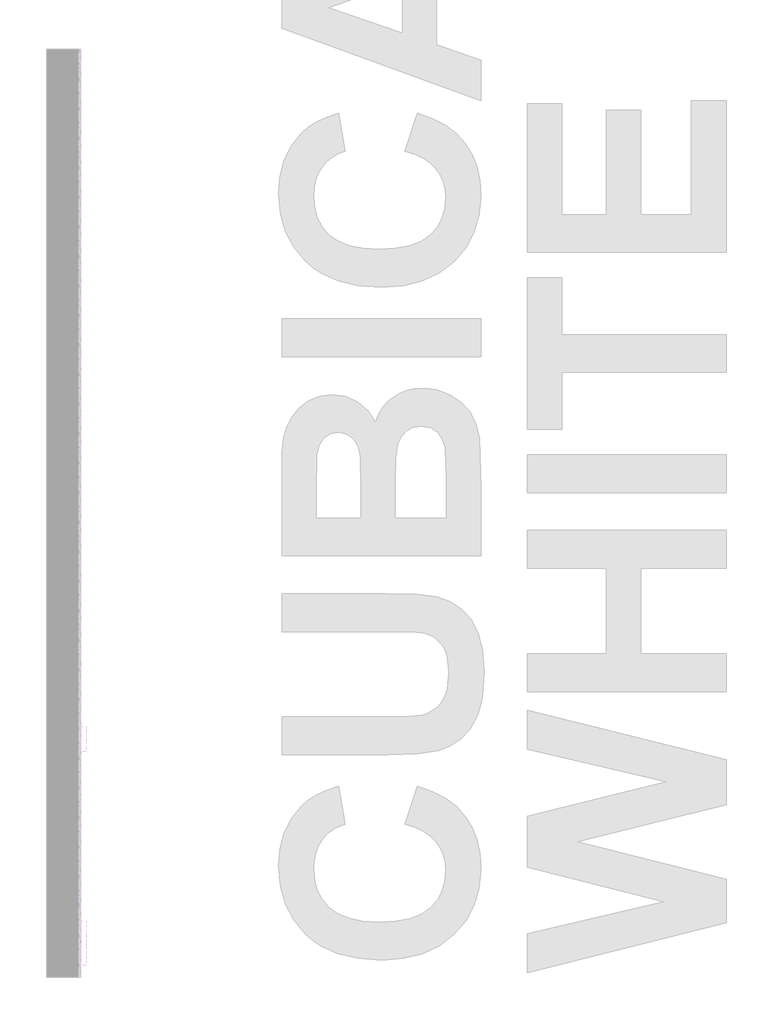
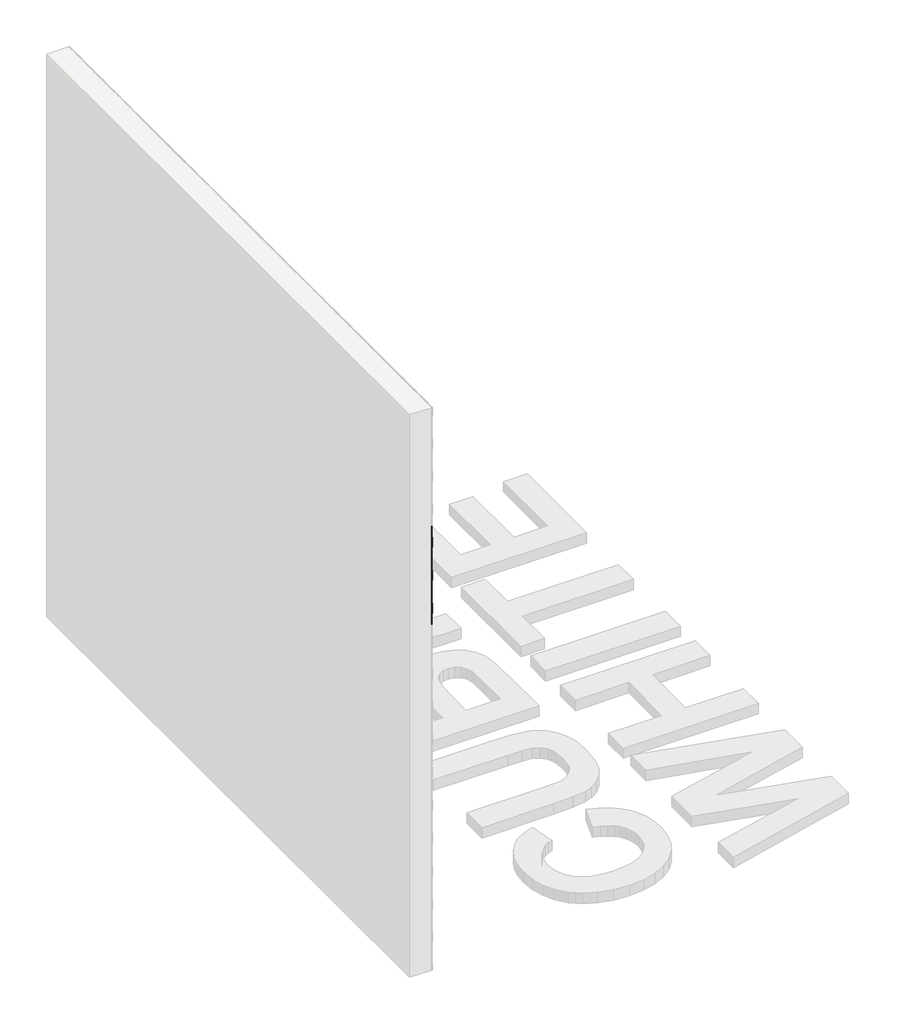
# One storey, part 102 of 121: 144 proxies.
"""IFC4 building model written with IfcOpenShell, lengths in millimetres."""

from ifc_helpers import new_model, si_unit, origin, place, context, project, spatial, transform, mapped, element, save
from components import generic_models_b2b2c5c1, generic_models_9bf73f6f, generic_models_5d175859, generic_models_45888c4d

model = new_model("IFC4")

# Units and contexts
model_context = context("Model", 3, world=origin())
ifc_project = project(units=[si_unit("LENGTHUNIT", "METRE", prefix="MILLI")], contexts=[model_context])

# Site, building, storey
site = spatial("IfcSite", under=ifc_project)
building = spatial("IfcBuilding", under=site)
storey = spatial("IfcBuildingStorey", under=building, Name="PORTOBELLO - SHOWROOM", Elevation=0.0)

# Proxies
placement = place(None, origin())
generic_models_shape = generic_models_b2b2c5c1(model_context)
element("IfcBuildingElementProxy", 1, Name="PBSHOP - CUBICA WHITE 4,8X8,3 : CUBICA WHITE - POSIÇÃO 01", ObjectType="PBSHOP - CUBICA WHITE 4,8X8,3 : CUBICA WHITE - POSIÇÃO 01", at=placement, inside=storey, context=model_context, shape_type="MappedRepresentation", body=[
    mapped(generic_models_shape, transform((150369.5341846, 19196.5477456, 1775.984211), x_axis=(0.0, 1.0, 0.0), y_axis=(0.0, 0.0, 1.0), z_axis=(1.0, 0.0, 0.0))),
])
element("IfcBuildingElementProxy", 2, Name="PBSHOP - CUBICA WHITE 4,8X8,3 : CUBICA WHITE - POSIÇÃO 01", ObjectType="PBSHOP - CUBICA WHITE 4,8X8,3 : CUBICA WHITE - POSIÇÃO 01", at=placement, inside=storey, context=model_context, shape_type="MappedRepresentation", body=[
    mapped(generic_models_shape, transform((150369.5341846, 19287.3870148, 1775.984211), x_axis=(0.0, 1.0, 0.0), y_axis=(0.0, 0.0, 1.0), z_axis=(1.0, 0.0, 0.0))),
])
element("IfcBuildingElementProxy", 3, Name="PBSHOP - CUBICA WHITE 4,8X8,3 : CUBICA WHITE - POSIÇÃO 01", ObjectType="PBSHOP - CUBICA WHITE 4,8X8,3 : CUBICA WHITE - POSIÇÃO 01", at=placement, inside=storey, context=model_context, shape_type="MappedRepresentation", body=[
    mapped(generic_models_shape, transform((150369.5341846, 19378.2262841, 1775.984211), x_axis=(0.0, 1.0, 0.0), y_axis=(0.0, 0.0, 1.0), z_axis=(1.0, 0.0, 0.0))),
])
element("IfcBuildingElementProxy", 4, Name="PBSHOP - CUBICA WHITE 4,8X8,3 : CUBICA WHITE - POSIÇÃO 01", ObjectType="PBSHOP - CUBICA WHITE 4,8X8,3 : CUBICA WHITE - POSIÇÃO 01", at=placement, inside=storey, context=model_context, shape_type="MappedRepresentation", body=[
    mapped(generic_models_shape, transform((150369.5341846, 19469.0655533, 1775.984211), x_axis=(0.0, 1.0, 0.0), y_axis=(0.0, 0.0, 1.0), z_axis=(1.0, 0.0, 0.0))),
])
element("IfcBuildingElementProxy", 5, Name="PBSHOP - CUBICA WHITE 4,8X8,3 : CUBICA WHITE - POSIÇÃO 01", ObjectType="PBSHOP - CUBICA WHITE 4,8X8,3 : CUBICA WHITE - POSIÇÃO 01", at=placement, inside=storey, context=model_context, shape_type="MappedRepresentation", body=[
    mapped(generic_models_shape, transform((150369.5341846, 19559.9048225, 1775.984211), x_axis=(0.0, 1.0, 0.0), y_axis=(0.0, 0.0, 1.0), z_axis=(1.0, 0.0, 0.0))),
])
element("IfcBuildingElementProxy", 6, Name="PBSHOP - CUBICA WHITE 4,8X8,3 : CUBICA WHITE - POSIÇÃO 01", ObjectType="PBSHOP - CUBICA WHITE 4,8X8,3 : CUBICA WHITE - POSIÇÃO 01", at=placement, inside=storey, context=model_context, shape_type="MappedRepresentation", body=[
    mapped(generic_models_shape, transform((150369.5341846, 19650.7440918, 1775.984211), x_axis=(0.0, 1.0, 0.0), y_axis=(0.0, 0.0, 1.0), z_axis=(1.0, 0.0, 0.0))),
])
element("IfcBuildingElementProxy", 7, Name="PBSHOP - CUBICA WHITE 4,8X8,3 : CUBICA WHITE - POSIÇÃO 01", ObjectType="PBSHOP - CUBICA WHITE 4,8X8,3 : CUBICA WHITE - POSIÇÃO 01", at=placement, inside=storey, context=model_context, shape_type="MappedRepresentation", body=[
    mapped(generic_models_shape, transform((150369.5341846, 19741.583361, 1775.984211), x_axis=(0.0, 1.0, 0.0), y_axis=(0.0, 0.0, 1.0), z_axis=(1.0, 0.0, 0.0))),
])
element("IfcBuildingElementProxy", 8, Name="PBSHOP - CUBICA WHITE 4,8X8,3 : CUBICA WHITE - POSIÇÃO 01", ObjectType="PBSHOP - CUBICA WHITE 4,8X8,3 : CUBICA WHITE - POSIÇÃO 01", at=placement, inside=storey, context=model_context, shape_type="MappedRepresentation", body=[
    mapped(generic_models_shape, transform((150369.5341846, 19832.4226303, 1775.984211), x_axis=(0.0, 1.0, 0.0), y_axis=(0.0, 0.0, 1.0), z_axis=(1.0, 0.0, 0.0))),
])
element("IfcBuildingElementProxy", 9, Name="PBSHOP - CUBICA WHITE 4,8X8,3 : CUBICA WHITE - POSIÇÃO 01", ObjectType="PBSHOP - CUBICA WHITE 4,8X8,3 : CUBICA WHITE - POSIÇÃO 01", at=placement, inside=storey, context=model_context, shape_type="MappedRepresentation", body=[
    mapped(generic_models_shape, transform((150369.5341846, 19923.2618995, 1775.984211), x_axis=(0.0, 1.0, 0.0), y_axis=(0.0, 0.0, 1.0), z_axis=(1.0, 0.0, 0.0))),
])
element("IfcBuildingElementProxy", 10, Name="PBSHOP - CUBICA WHITE 4,8X8,3 : CUBICA WHITE - POSIÇÃO 01", ObjectType="PBSHOP - CUBICA WHITE 4,8X8,3 : CUBICA WHITE - POSIÇÃO 01", at=placement, inside=storey, context=model_context, shape_type="MappedRepresentation", body=[
    mapped(generic_models_shape, transform((150369.5341846, 19241.9673802, 1854.9188494), x_axis=(0.0, 1.0, 0.0), y_axis=(0.0, 0.0, 1.0), z_axis=(1.0, 0.0, 0.0))),
])
element("IfcBuildingElementProxy", 11, Name="PBSHOP - CUBICA WHITE 4,8X8,3 : CUBICA WHITE - POSIÇÃO 01", ObjectType="PBSHOP - CUBICA WHITE 4,8X8,3 : CUBICA WHITE - POSIÇÃO 01", at=placement, inside=storey, context=model_context, shape_type="MappedRepresentation", body=[
    mapped(generic_models_shape, transform((150369.5341846, 19332.8066494, 1854.9188494), x_axis=(0.0, 1.0, 0.0), y_axis=(0.0, 0.0, 1.0), z_axis=(1.0, 0.0, 0.0))),
])
element("IfcBuildingElementProxy", 12, Name="PBSHOP - CUBICA WHITE 4,8X8,3 : CUBICA WHITE - POSIÇÃO 01", ObjectType="PBSHOP - CUBICA WHITE 4,8X8,3 : CUBICA WHITE - POSIÇÃO 01", at=placement, inside=storey, context=model_context, shape_type="MappedRepresentation", body=[
    mapped(generic_models_shape, transform((150369.5341846, 19423.6459187, 1854.9188494), x_axis=(0.0, 1.0, 0.0), y_axis=(0.0, 0.0, 1.0), z_axis=(1.0, 0.0, 0.0))),
])
element("IfcBuildingElementProxy", 13, Name="PBSHOP - CUBICA WHITE 4,8X8,3 : CUBICA WHITE - POSIÇÃO 01", ObjectType="PBSHOP - CUBICA WHITE 4,8X8,3 : CUBICA WHITE - POSIÇÃO 01", at=placement, inside=storey, context=model_context, shape_type="MappedRepresentation", body=[
    mapped(generic_models_shape, transform((150369.5341846, 19514.4851879, 1854.9188494), x_axis=(0.0, 1.0, 0.0), y_axis=(0.0, 0.0, 1.0), z_axis=(1.0, 0.0, 0.0))),
])
element("IfcBuildingElementProxy", 14, Name="PBSHOP - CUBICA WHITE 4,8X8,3 : CUBICA WHITE - POSIÇÃO 01", ObjectType="PBSHOP - CUBICA WHITE 4,8X8,3 : CUBICA WHITE - POSIÇÃO 01", at=placement, inside=storey, context=model_context, shape_type="MappedRepresentation", body=[
    mapped(generic_models_shape, transform((150369.5341846, 19605.3244572, 1854.9188494), x_axis=(0.0, 1.0, 0.0), y_axis=(0.0, 0.0, 1.0), z_axis=(1.0, 0.0, 0.0))),
])
element("IfcBuildingElementProxy", 15, Name="PBSHOP - CUBICA WHITE 4,8X8,3 : CUBICA WHITE - POSIÇÃO 01", ObjectType="PBSHOP - CUBICA WHITE 4,8X8,3 : CUBICA WHITE - POSIÇÃO 01", at=placement, inside=storey, context=model_context, shape_type="MappedRepresentation", body=[
    mapped(generic_models_shape, transform((150369.5341846, 19696.1637264, 1854.9188494), x_axis=(0.0, 1.0, 0.0), y_axis=(0.0, 0.0, 1.0), z_axis=(1.0, 0.0, 0.0))),
])
element("IfcBuildingElementProxy", 16, Name="PBSHOP - CUBICA WHITE 4,8X8,3 : CUBICA WHITE - POSIÇÃO 01", ObjectType="PBSHOP - CUBICA WHITE 4,8X8,3 : CUBICA WHITE - POSIÇÃO 01", at=placement, inside=storey, context=model_context, shape_type="MappedRepresentation", body=[
    mapped(generic_models_shape, transform((150369.5341846, 19787.0029957, 1854.9188494), x_axis=(0.0, 1.0, 0.0), y_axis=(0.0, 0.0, 1.0), z_axis=(1.0, 0.0, 0.0))),
])
element("IfcBuildingElementProxy", 17, Name="PBSHOP - CUBICA WHITE 4,8X8,3 : CUBICA WHITE - POSIÇÃO 01", ObjectType="PBSHOP - CUBICA WHITE 4,8X8,3 : CUBICA WHITE - POSIÇÃO 01", at=placement, inside=storey, context=model_context, shape_type="MappedRepresentation", body=[
    mapped(generic_models_shape, transform((150369.5341846, 19877.8422649, 1854.9188494), x_axis=(0.0, 1.0, 0.0), y_axis=(0.0, 0.0, 1.0), z_axis=(1.0, 0.0, 0.0))),
])
element("IfcBuildingElementProxy", 18, Name="PBSHOP - CUBICA WHITE 4,8X8,3 : CUBICA WHITE - POSIÇÃO 01", ObjectType="PBSHOP - CUBICA WHITE 4,8X8,3 : CUBICA WHITE - POSIÇÃO 01", at=placement, inside=storey, context=model_context, shape_type="MappedRepresentation", body=[
    mapped(generic_models_shape, transform((150369.5341846, 19968.6815341, 1854.9188494), x_axis=(0.0, 1.0, 0.0), y_axis=(0.0, 0.0, 1.0), z_axis=(1.0, 0.0, 0.0))),
])
element("IfcBuildingElementProxy", 19, Name="PBSHOP - CUBICA WHITE 4,8X8,3 : CUBICA WHITE - POSIÇÃO 01", ObjectType="PBSHOP - CUBICA WHITE 4,8X8,3 : CUBICA WHITE - POSIÇÃO 01", at=placement, inside=storey, context=model_context, shape_type="MappedRepresentation", body=[
    mapped(generic_models_shape, transform((150369.5341846, 19196.5477456, 1933.8534878), x_axis=(0.0, 1.0, 0.0), y_axis=(0.0, 0.0, 1.0), z_axis=(1.0, 0.0, 0.0))),
])
element("IfcBuildingElementProxy", 20, Name="PBSHOP - CUBICA WHITE 4,8X8,3 : CUBICA WHITE - POSIÇÃO 01", ObjectType="PBSHOP - CUBICA WHITE 4,8X8,3 : CUBICA WHITE - POSIÇÃO 01", at=placement, inside=storey, context=model_context, shape_type="MappedRepresentation", body=[
    mapped(generic_models_shape, transform((150369.5341846, 19287.3870148, 1933.8534878), x_axis=(0.0, 1.0, 0.0), y_axis=(0.0, 0.0, 1.0), z_axis=(1.0, 0.0, 0.0))),
])
element("IfcBuildingElementProxy", 21, Name="PBSHOP - CUBICA WHITE 4,8X8,3 : CUBICA WHITE - POSIÇÃO 01", ObjectType="PBSHOP - CUBICA WHITE 4,8X8,3 : CUBICA WHITE - POSIÇÃO 01", at=placement, inside=storey, context=model_context, shape_type="MappedRepresentation", body=[
    mapped(generic_models_shape, transform((150369.5341846, 19378.2262841, 1933.8534878), x_axis=(0.0, 1.0, 0.0), y_axis=(0.0, 0.0, 1.0), z_axis=(1.0, 0.0, 0.0))),
])
element("IfcBuildingElementProxy", 22, Name="PBSHOP - CUBICA WHITE 4,8X8,3 : CUBICA WHITE - POSIÇÃO 01", ObjectType="PBSHOP - CUBICA WHITE 4,8X8,3 : CUBICA WHITE - POSIÇÃO 01", at=placement, inside=storey, context=model_context, shape_type="MappedRepresentation", body=[
    mapped(generic_models_shape, transform((150369.5341846, 19469.0655533, 1933.8534878), x_axis=(0.0, 1.0, 0.0), y_axis=(0.0, 0.0, 1.0), z_axis=(1.0, 0.0, 0.0))),
])
element("IfcBuildingElementProxy", 23, Name="PBSHOP - CUBICA WHITE 4,8X8,3 : CUBICA WHITE - POSIÇÃO 01", ObjectType="PBSHOP - CUBICA WHITE 4,8X8,3 : CUBICA WHITE - POSIÇÃO 01", at=placement, inside=storey, context=model_context, shape_type="MappedRepresentation", body=[
    mapped(generic_models_shape, transform((150369.5341846, 19559.9048225, 1933.8534878), x_axis=(0.0, 1.0, 0.0), y_axis=(0.0, 0.0, 1.0), z_axis=(1.0, 0.0, 0.0))),
])
element("IfcBuildingElementProxy", 24, Name="PBSHOP - CUBICA WHITE 4,8X8,3 : CUBICA WHITE - POSIÇÃO 01", ObjectType="PBSHOP - CUBICA WHITE 4,8X8,3 : CUBICA WHITE - POSIÇÃO 01", at=placement, inside=storey, context=model_context, shape_type="MappedRepresentation", body=[
    mapped(generic_models_shape, transform((150369.5341846, 19650.7440918, 1933.8534878), x_axis=(0.0, 1.0, 0.0), y_axis=(0.0, 0.0, 1.0), z_axis=(1.0, 0.0, 0.0))),
])
element("IfcBuildingElementProxy", 25, Name="PBSHOP - CUBICA WHITE 4,8X8,3 : CUBICA WHITE - POSIÇÃO 01", ObjectType="PBSHOP - CUBICA WHITE 4,8X8,3 : CUBICA WHITE - POSIÇÃO 01", at=placement, inside=storey, context=model_context, shape_type="MappedRepresentation", body=[
    mapped(generic_models_shape, transform((150369.5341846, 19741.583361, 1933.8534878), x_axis=(0.0, 1.0, 0.0), y_axis=(0.0, 0.0, 1.0), z_axis=(1.0, 0.0, 0.0))),
])
element("IfcBuildingElementProxy", 26, Name="PBSHOP - CUBICA WHITE 4,8X8,3 : CUBICA WHITE - POSIÇÃO 01", ObjectType="PBSHOP - CUBICA WHITE 4,8X8,3 : CUBICA WHITE - POSIÇÃO 01", at=placement, inside=storey, context=model_context, shape_type="MappedRepresentation", body=[
    mapped(generic_models_shape, transform((150369.5341846, 19832.4226303, 1933.8534878), x_axis=(0.0, 1.0, 0.0), y_axis=(0.0, 0.0, 1.0), z_axis=(1.0, 0.0, 0.0))),
])
element("IfcBuildingElementProxy", 27, Name="PBSHOP - CUBICA WHITE 4,8X8,3 : CUBICA WHITE - POSIÇÃO 01", ObjectType="PBSHOP - CUBICA WHITE 4,8X8,3 : CUBICA WHITE - POSIÇÃO 01", at=placement, inside=storey, context=model_context, shape_type="MappedRepresentation", body=[
    mapped(generic_models_shape, transform((150369.5341846, 19923.2618995, 1933.8534878), x_axis=(0.0, 1.0, 0.0), y_axis=(0.0, 0.0, 1.0), z_axis=(1.0, 0.0, 0.0))),
])
element("IfcBuildingElementProxy", 28, Name="PBSHOP - CUBICA WHITE 4,8X8,3 : CUBICA WHITE - POSIÇÃO 01", ObjectType="PBSHOP - CUBICA WHITE 4,8X8,3 : CUBICA WHITE - POSIÇÃO 01", at=placement, inside=storey, context=model_context, shape_type="MappedRepresentation", body=[
    mapped(generic_models_shape, transform((150369.5341846, 19241.9673802, 2012.7881262), x_axis=(0.0, 1.0, 0.0), y_axis=(0.0, 0.0, 1.0), z_axis=(1.0, 0.0, 0.0))),
])
element("IfcBuildingElementProxy", 29, Name="PBSHOP - CUBICA WHITE 4,8X8,3 : CUBICA WHITE - POSIÇÃO 01", ObjectType="PBSHOP - CUBICA WHITE 4,8X8,3 : CUBICA WHITE - POSIÇÃO 01", at=placement, inside=storey, context=model_context, shape_type="MappedRepresentation", body=[
    mapped(generic_models_shape, transform((150369.5341846, 19332.8066494, 2012.7881262), x_axis=(0.0, 1.0, 0.0), y_axis=(0.0, 0.0, 1.0), z_axis=(1.0, 0.0, 0.0))),
])
element("IfcBuildingElementProxy", 30, Name="PBSHOP - CUBICA WHITE 4,8X8,3 : CUBICA WHITE - POSIÇÃO 01", ObjectType="PBSHOP - CUBICA WHITE 4,8X8,3 : CUBICA WHITE - POSIÇÃO 01", at=placement, inside=storey, context=model_context, shape_type="MappedRepresentation", body=[
    mapped(generic_models_shape, transform((150369.5341846, 19423.6459187, 2012.7881262), x_axis=(0.0, 1.0, 0.0), y_axis=(0.0, 0.0, 1.0), z_axis=(1.0, 0.0, 0.0))),
])
element("IfcBuildingElementProxy", 31, Name="PBSHOP - CUBICA WHITE 4,8X8,3 : CUBICA WHITE - POSIÇÃO 01", ObjectType="PBSHOP - CUBICA WHITE 4,8X8,3 : CUBICA WHITE - POSIÇÃO 01", at=placement, inside=storey, context=model_context, shape_type="MappedRepresentation", body=[
    mapped(generic_models_shape, transform((150369.5341846, 19514.4851879, 2012.7881262), x_axis=(0.0, 1.0, 0.0), y_axis=(0.0, 0.0, 1.0), z_axis=(1.0, 0.0, 0.0))),
])
element("IfcBuildingElementProxy", 32, Name="PBSHOP - CUBICA WHITE 4,8X8,3 : CUBICA WHITE - POSIÇÃO 01", ObjectType="PBSHOP - CUBICA WHITE 4,8X8,3 : CUBICA WHITE - POSIÇÃO 01", at=placement, inside=storey, context=model_context, shape_type="MappedRepresentation", body=[
    mapped(generic_models_shape, transform((150369.5341846, 19605.3244572, 2012.7881262), x_axis=(0.0, 1.0, 0.0), y_axis=(0.0, 0.0, 1.0), z_axis=(1.0, 0.0, 0.0))),
])
element("IfcBuildingElementProxy", 33, Name="PBSHOP - CUBICA WHITE 4,8X8,3 : CUBICA WHITE - POSIÇÃO 01", ObjectType="PBSHOP - CUBICA WHITE 4,8X8,3 : CUBICA WHITE - POSIÇÃO 01", at=placement, inside=storey, context=model_context, shape_type="MappedRepresentation", body=[
    mapped(generic_models_shape, transform((150369.5341846, 19696.1637264, 2012.7881262), x_axis=(0.0, 1.0, 0.0), y_axis=(0.0, 0.0, 1.0), z_axis=(1.0, 0.0, 0.0))),
])
element("IfcBuildingElementProxy", 34, Name="PBSHOP - CUBICA WHITE 4,8X8,3 : CUBICA WHITE - POSIÇÃO 01", ObjectType="PBSHOP - CUBICA WHITE 4,8X8,3 : CUBICA WHITE - POSIÇÃO 01", at=placement, inside=storey, context=model_context, shape_type="MappedRepresentation", body=[
    mapped(generic_models_shape, transform((150369.5341846, 19787.0029957, 2012.7881262), x_axis=(0.0, 1.0, 0.0), y_axis=(0.0, 0.0, 1.0), z_axis=(1.0, 0.0, 0.0))),
])
element("IfcBuildingElementProxy", 35, Name="PBSHOP - CUBICA WHITE 4,8X8,3 : CUBICA WHITE - POSIÇÃO 01", ObjectType="PBSHOP - CUBICA WHITE 4,8X8,3 : CUBICA WHITE - POSIÇÃO 01", at=placement, inside=storey, context=model_context, shape_type="MappedRepresentation", body=[
    mapped(generic_models_shape, transform((150369.5341846, 19877.8422649, 2012.7881262), x_axis=(0.0, 1.0, 0.0), y_axis=(0.0, 0.0, 1.0), z_axis=(1.0, 0.0, 0.0))),
])
element("IfcBuildingElementProxy", 36, Name="PBSHOP - CUBICA WHITE 4,8X8,3 : CUBICA WHITE - POSIÇÃO 01", ObjectType="PBSHOP - CUBICA WHITE 4,8X8,3 : CUBICA WHITE - POSIÇÃO 01", at=placement, inside=storey, context=model_context, shape_type="MappedRepresentation", body=[
    mapped(generic_models_shape, transform((150369.5341846, 19968.6815341, 2012.7881262), x_axis=(0.0, 1.0, 0.0), y_axis=(0.0, 0.0, 1.0), z_axis=(1.0, 0.0, 0.0))),
])
element("IfcBuildingElementProxy", 37, Name="PBSHOP - CUBICA WHITE 4,8X8,3 : CUBICA WHITE - POSIÇÃO 01", ObjectType="PBSHOP - CUBICA WHITE 4,8X8,3 : CUBICA WHITE - POSIÇÃO 01", at=placement, inside=storey, context=model_context, shape_type="MappedRepresentation", body=[
    mapped(generic_models_shape, transform((150369.5341846, 19196.5477456, 2091.7227645), x_axis=(0.0, 1.0, 0.0), y_axis=(0.0, 0.0, 1.0), z_axis=(1.0, 0.0, 0.0))),
])
element("IfcBuildingElementProxy", 38, Name="PBSHOP - CUBICA WHITE 4,8X8,3 : CUBICA WHITE - POSIÇÃO 01", ObjectType="PBSHOP - CUBICA WHITE 4,8X8,3 : CUBICA WHITE - POSIÇÃO 01", at=placement, inside=storey, context=model_context, shape_type="MappedRepresentation", body=[
    mapped(generic_models_shape, transform((150369.5341846, 19287.3870148, 2091.7227645), x_axis=(0.0, 1.0, 0.0), y_axis=(0.0, 0.0, 1.0), z_axis=(1.0, 0.0, 0.0))),
])
element("IfcBuildingElementProxy", 39, Name="PBSHOP - CUBICA WHITE 4,8X8,3 : CUBICA WHITE - POSIÇÃO 01", ObjectType="PBSHOP - CUBICA WHITE 4,8X8,3 : CUBICA WHITE - POSIÇÃO 01", at=placement, inside=storey, context=model_context, shape_type="MappedRepresentation", body=[
    mapped(generic_models_shape, transform((150369.5341846, 19378.2262841, 2091.7227645), x_axis=(0.0, 1.0, 0.0), y_axis=(0.0, 0.0, 1.0), z_axis=(1.0, 0.0, 0.0))),
])
element("IfcBuildingElementProxy", 40, Name="PBSHOP - CUBICA WHITE 4,8X8,3 : CUBICA WHITE - POSIÇÃO 01", ObjectType="PBSHOP - CUBICA WHITE 4,8X8,3 : CUBICA WHITE - POSIÇÃO 01", at=placement, inside=storey, context=model_context, shape_type="MappedRepresentation", body=[
    mapped(generic_models_shape, transform((150369.5341846, 19469.0655533, 2091.7227645), x_axis=(0.0, 1.0, 0.0), y_axis=(0.0, 0.0, 1.0), z_axis=(1.0, 0.0, 0.0))),
])
element("IfcBuildingElementProxy", 41, Name="PBSHOP - CUBICA WHITE 4,8X8,3 : CUBICA WHITE - POSIÇÃO 01", ObjectType="PBSHOP - CUBICA WHITE 4,8X8,3 : CUBICA WHITE - POSIÇÃO 01", at=placement, inside=storey, context=model_context, shape_type="MappedRepresentation", body=[
    mapped(generic_models_shape, transform((150369.5341846, 19559.9048225, 2091.7227645), x_axis=(0.0, 1.0, 0.0), y_axis=(0.0, 0.0, 1.0), z_axis=(1.0, 0.0, 0.0))),
])
element("IfcBuildingElementProxy", 42, Name="PBSHOP - CUBICA WHITE 4,8X8,3 : CUBICA WHITE - POSIÇÃO 01", ObjectType="PBSHOP - CUBICA WHITE 4,8X8,3 : CUBICA WHITE - POSIÇÃO 01", at=placement, inside=storey, context=model_context, shape_type="MappedRepresentation", body=[
    mapped(generic_models_shape, transform((150369.5341846, 19650.7440918, 2091.7227645), x_axis=(0.0, 1.0, 0.0), y_axis=(0.0, 0.0, 1.0), z_axis=(1.0, 0.0, 0.0))),
])
element("IfcBuildingElementProxy", 43, Name="PBSHOP - CUBICA WHITE 4,8X8,3 : CUBICA WHITE - POSIÇÃO 01", ObjectType="PBSHOP - CUBICA WHITE 4,8X8,3 : CUBICA WHITE - POSIÇÃO 01", at=placement, inside=storey, context=model_context, shape_type="MappedRepresentation", body=[
    mapped(generic_models_shape, transform((150369.5341846, 19741.583361, 2091.7227645), x_axis=(0.0, 1.0, 0.0), y_axis=(0.0, 0.0, 1.0), z_axis=(1.0, 0.0, 0.0))),
])
element("IfcBuildingElementProxy", 44, Name="PBSHOP - CUBICA WHITE 4,8X8,3 : CUBICA WHITE - POSIÇÃO 01", ObjectType="PBSHOP - CUBICA WHITE 4,8X8,3 : CUBICA WHITE - POSIÇÃO 01", at=placement, inside=storey, context=model_context, shape_type="MappedRepresentation", body=[
    mapped(generic_models_shape, transform((150369.5341846, 19832.4226303, 2091.7227645), x_axis=(0.0, 1.0, 0.0), y_axis=(0.0, 0.0, 1.0), z_axis=(1.0, 0.0, 0.0))),
])
element("IfcBuildingElementProxy", 45, Name="PBSHOP - CUBICA WHITE 4,8X8,3 : CUBICA WHITE - POSIÇÃO 01", ObjectType="PBSHOP - CUBICA WHITE 4,8X8,3 : CUBICA WHITE - POSIÇÃO 01", at=placement, inside=storey, context=model_context, shape_type="MappedRepresentation", body=[
    mapped(generic_models_shape, transform((150369.5341846, 19923.2618995, 2091.7227645), x_axis=(0.0, 1.0, 0.0), y_axis=(0.0, 0.0, 1.0), z_axis=(1.0, 0.0, 0.0))),
])
element("IfcBuildingElementProxy", 46, Name="PBSHOP - CUBICA WHITE 4,8X8,3 : CUBICA WHITE - POSIÇÃO 01", ObjectType="PBSHOP - CUBICA WHITE 4,8X8,3 : CUBICA WHITE - POSIÇÃO 01", at=placement, inside=storey, context=model_context, shape_type="MappedRepresentation", body=[
    mapped(generic_models_shape, transform((150369.5341846, 19241.9673802, 2170.6574029), x_axis=(0.0, 1.0, 0.0), y_axis=(0.0, 0.0, 1.0), z_axis=(1.0, 0.0, 0.0))),
])
generic_models_2_shape = generic_models_9bf73f6f(model_context)
element("IfcBuildingElementProxy", 47, Name="PBSHOP - CUBICA WHITE 4,8X8,3 : CUBICA WHITE - POSIÇÃO 03", ObjectType="PBSHOP - CUBICA WHITE 4,8X8,3 : CUBICA WHITE - POSIÇÃO 03", at=placement, inside=storey, context=model_context, shape_type="MappedRepresentation", body=[
    mapped(generic_models_2_shape, transform((150369.5341846, 19764.2953375, 1657.5410431), x_axis=(0.0, 1.0, 0.0), y_axis=(0.0, 0.0, 1.0), z_axis=(1.0, 0.0, 0.0))),
])
element("IfcBuildingElementProxy", 48, Name="PBSHOP - CUBICA WHITE 4,8X8,3 : CUBICA WHITE - POSIÇÃO 03", ObjectType="PBSHOP - CUBICA WHITE 4,8X8,3 : CUBICA WHITE - POSIÇÃO 03", at=placement, inside=storey, context=model_context, shape_type="MappedRepresentation", body=[
    mapped(generic_models_2_shape, transform((150369.5341846, 19855.1346068, 1657.5410431), x_axis=(0.0, 1.0, 0.0), y_axis=(0.0, 0.0, 1.0), z_axis=(1.0, 0.0, 0.0))),
])
element("IfcBuildingElementProxy", 49, Name="PBSHOP - CUBICA WHITE 4,8X8,3 : CUBICA WHITE - POSIÇÃO 03", ObjectType="PBSHOP - CUBICA WHITE 4,8X8,3 : CUBICA WHITE - POSIÇÃO 03", at=placement, inside=storey, context=model_context, shape_type="MappedRepresentation", body=[
    mapped(generic_models_2_shape, transform((150369.5341846, 19945.973876, 1657.5410431), x_axis=(0.0, 1.0, 0.0), y_axis=(0.0, 0.0, 1.0), z_axis=(1.0, 0.0, 0.0))),
])
element("IfcBuildingElementProxy", 50, Name="PBSHOP - CUBICA WHITE 4,8X8,3 : CUBICA WHITE - POSIÇÃO 03", ObjectType="PBSHOP - CUBICA WHITE 4,8X8,3 : CUBICA WHITE - POSIÇÃO 03", at=placement, inside=storey, context=model_context, shape_type="MappedRepresentation", body=[
    mapped(generic_models_2_shape, transform((150369.5341846, 19264.6793567, 1736.4756814), x_axis=(0.0, 1.0, 0.0), y_axis=(0.0, 0.0, 1.0), z_axis=(1.0, 0.0, 0.0))),
])
element("IfcBuildingElementProxy", 51, Name="PBSHOP - CUBICA WHITE 4,8X8,3 : CUBICA WHITE - POSIÇÃO 03", ObjectType="PBSHOP - CUBICA WHITE 4,8X8,3 : CUBICA WHITE - POSIÇÃO 03", at=placement, inside=storey, context=model_context, shape_type="MappedRepresentation", body=[
    mapped(generic_models_2_shape, transform((150369.5341846, 19355.5186259, 1736.4756814), x_axis=(0.0, 1.0, 0.0), y_axis=(0.0, 0.0, 1.0), z_axis=(1.0, 0.0, 0.0))),
])
element("IfcBuildingElementProxy", 52, Name="PBSHOP - CUBICA WHITE 4,8X8,3 : CUBICA WHITE - POSIÇÃO 03", ObjectType="PBSHOP - CUBICA WHITE 4,8X8,3 : CUBICA WHITE - POSIÇÃO 03", at=placement, inside=storey, context=model_context, shape_type="MappedRepresentation", body=[
    mapped(generic_models_2_shape, transform((150369.5341846, 19446.3578952, 1736.4756814), x_axis=(0.0, 1.0, 0.0), y_axis=(0.0, 0.0, 1.0), z_axis=(1.0, 0.0, 0.0))),
])
element("IfcBuildingElementProxy", 53, Name="PBSHOP - CUBICA WHITE 4,8X8,3 : CUBICA WHITE - POSIÇÃO 03", ObjectType="PBSHOP - CUBICA WHITE 4,8X8,3 : CUBICA WHITE - POSIÇÃO 03", at=placement, inside=storey, context=model_context, shape_type="MappedRepresentation", body=[
    mapped(generic_models_2_shape, transform((150369.5341846, 19537.1971644, 1736.4756814), x_axis=(0.0, 1.0, 0.0), y_axis=(0.0, 0.0, 1.0), z_axis=(1.0, 0.0, 0.0))),
])
element("IfcBuildingElementProxy", 54, Name="PBSHOP - CUBICA WHITE 4,8X8,3 : CUBICA WHITE - POSIÇÃO 03", ObjectType="PBSHOP - CUBICA WHITE 4,8X8,3 : CUBICA WHITE - POSIÇÃO 03", at=placement, inside=storey, context=model_context, shape_type="MappedRepresentation", body=[
    mapped(generic_models_2_shape, transform((150369.5341846, 19628.0364336, 1736.4756814), x_axis=(0.0, 1.0, 0.0), y_axis=(0.0, 0.0, 1.0), z_axis=(1.0, 0.0, 0.0))),
])
element("IfcBuildingElementProxy", 55, Name="PBSHOP - CUBICA WHITE 4,8X8,3 : CUBICA WHITE - POSIÇÃO 03", ObjectType="PBSHOP - CUBICA WHITE 4,8X8,3 : CUBICA WHITE - POSIÇÃO 03", at=placement, inside=storey, context=model_context, shape_type="MappedRepresentation", body=[
    mapped(generic_models_2_shape, transform((150369.5341846, 19718.8757029, 1736.4756814), x_axis=(0.0, 1.0, 0.0), y_axis=(0.0, 0.0, 1.0), z_axis=(1.0, 0.0, 0.0))),
])
element("IfcBuildingElementProxy", 56, Name="PBSHOP - CUBICA WHITE 4,8X8,3 : CUBICA WHITE - POSIÇÃO 03", ObjectType="PBSHOP - CUBICA WHITE 4,8X8,3 : CUBICA WHITE - POSIÇÃO 03", at=placement, inside=storey, context=model_context, shape_type="MappedRepresentation", body=[
    mapped(generic_models_2_shape, transform((150369.5341846, 19809.7149721, 1736.4756814), x_axis=(0.0, 1.0, 0.0), y_axis=(0.0, 0.0, 1.0), z_axis=(1.0, 0.0, 0.0))),
])
element("IfcBuildingElementProxy", 57, Name="PBSHOP - CUBICA WHITE 4,8X8,3 : CUBICA WHITE - POSIÇÃO 03", ObjectType="PBSHOP - CUBICA WHITE 4,8X8,3 : CUBICA WHITE - POSIÇÃO 03", at=placement, inside=storey, context=model_context, shape_type="MappedRepresentation", body=[
    mapped(generic_models_2_shape, transform((150369.5341846, 19900.5542414, 1736.4756814), x_axis=(0.0, 1.0, 0.0), y_axis=(0.0, 0.0, 1.0), z_axis=(1.0, 0.0, 0.0))),
])
element("IfcBuildingElementProxy", 58, Name="PBSHOP - CUBICA WHITE 4,8X8,3 : CUBICA WHITE - POSIÇÃO 03", ObjectType="PBSHOP - CUBICA WHITE 4,8X8,3 : CUBICA WHITE - POSIÇÃO 03", at=placement, inside=storey, context=model_context, shape_type="MappedRepresentation", body=[
    mapped(generic_models_2_shape, transform((150369.5341846, 19991.3935106, 1736.4756814), x_axis=(0.0, 1.0, 0.0), y_axis=(0.0, 0.0, 1.0), z_axis=(1.0, 0.0, 0.0))),
])
element("IfcBuildingElementProxy", 59, Name="PBSHOP - CUBICA WHITE 4,8X8,3 : CUBICA WHITE - POSIÇÃO 03", ObjectType="PBSHOP - CUBICA WHITE 4,8X8,3 : CUBICA WHITE - POSIÇÃO 03", at=placement, inside=storey, context=model_context, shape_type="MappedRepresentation", body=[
    mapped(generic_models_2_shape, transform((150369.5341846, 19219.259722, 1815.4103198), x_axis=(0.0, 1.0, 0.0), y_axis=(0.0, 0.0, 1.0), z_axis=(1.0, 0.0, 0.0))),
])
element("IfcBuildingElementProxy", 60, Name="PBSHOP - CUBICA WHITE 4,8X8,3 : CUBICA WHITE - POSIÇÃO 03", ObjectType="PBSHOP - CUBICA WHITE 4,8X8,3 : CUBICA WHITE - POSIÇÃO 03", at=placement, inside=storey, context=model_context, shape_type="MappedRepresentation", body=[
    mapped(generic_models_2_shape, transform((150369.5341846, 19310.0989913, 1815.4103198), x_axis=(0.0, 1.0, 0.0), y_axis=(0.0, 0.0, 1.0), z_axis=(1.0, 0.0, 0.0))),
])
element("IfcBuildingElementProxy", 61, Name="PBSHOP - CUBICA WHITE 4,8X8,3 : CUBICA WHITE - POSIÇÃO 03", ObjectType="PBSHOP - CUBICA WHITE 4,8X8,3 : CUBICA WHITE - POSIÇÃO 03", at=placement, inside=storey, context=model_context, shape_type="MappedRepresentation", body=[
    mapped(generic_models_2_shape, transform((150369.5341846, 19400.9382605, 1815.4103198), x_axis=(0.0, 1.0, 0.0), y_axis=(0.0, 0.0, 1.0), z_axis=(1.0, 0.0, 0.0))),
])
element("IfcBuildingElementProxy", 62, Name="PBSHOP - CUBICA WHITE 4,8X8,3 : CUBICA WHITE - POSIÇÃO 03", ObjectType="PBSHOP - CUBICA WHITE 4,8X8,3 : CUBICA WHITE - POSIÇÃO 03", at=placement, inside=storey, context=model_context, shape_type="MappedRepresentation", body=[
    mapped(generic_models_2_shape, transform((150369.5341846, 19491.7775298, 1815.4103198), x_axis=(0.0, 1.0, 0.0), y_axis=(0.0, 0.0, 1.0), z_axis=(1.0, 0.0, 0.0))),
])
element("IfcBuildingElementProxy", 63, Name="PBSHOP - CUBICA WHITE 4,8X8,3 : CUBICA WHITE - POSIÇÃO 03", ObjectType="PBSHOP - CUBICA WHITE 4,8X8,3 : CUBICA WHITE - POSIÇÃO 03", at=placement, inside=storey, context=model_context, shape_type="MappedRepresentation", body=[
    mapped(generic_models_2_shape, transform((150369.5341846, 19582.616799, 1815.4103198), x_axis=(0.0, 1.0, 0.0), y_axis=(0.0, 0.0, 1.0), z_axis=(1.0, 0.0, 0.0))),
])
element("IfcBuildingElementProxy", 64, Name="PBSHOP - CUBICA WHITE 4,8X8,3 : CUBICA WHITE - POSIÇÃO 03", ObjectType="PBSHOP - CUBICA WHITE 4,8X8,3 : CUBICA WHITE - POSIÇÃO 03", at=placement, inside=storey, context=model_context, shape_type="MappedRepresentation", body=[
    mapped(generic_models_2_shape, transform((150369.5341846, 19673.4560683, 1815.4103198), x_axis=(0.0, 1.0, 0.0), y_axis=(0.0, 0.0, 1.0), z_axis=(1.0, 0.0, 0.0))),
])
element("IfcBuildingElementProxy", 65, Name="PBSHOP - CUBICA WHITE 4,8X8,3 : CUBICA WHITE - POSIÇÃO 03", ObjectType="PBSHOP - CUBICA WHITE 4,8X8,3 : CUBICA WHITE - POSIÇÃO 03", at=placement, inside=storey, context=model_context, shape_type="MappedRepresentation", body=[
    mapped(generic_models_2_shape, transform((150369.5341846, 19764.2953375, 1815.4103198), x_axis=(0.0, 1.0, 0.0), y_axis=(0.0, 0.0, 1.0), z_axis=(1.0, 0.0, 0.0))),
])
element("IfcBuildingElementProxy", 66, Name="PBSHOP - CUBICA WHITE 4,8X8,3 : CUBICA WHITE - POSIÇÃO 03", ObjectType="PBSHOP - CUBICA WHITE 4,8X8,3 : CUBICA WHITE - POSIÇÃO 03", at=placement, inside=storey, context=model_context, shape_type="MappedRepresentation", body=[
    mapped(generic_models_2_shape, transform((150369.5341846, 19855.1346068, 1815.4103198), x_axis=(0.0, 1.0, 0.0), y_axis=(0.0, 0.0, 1.0), z_axis=(1.0, 0.0, 0.0))),
])
element("IfcBuildingElementProxy", 67, Name="PBSHOP - CUBICA WHITE 4,8X8,3 : CUBICA WHITE - POSIÇÃO 03", ObjectType="PBSHOP - CUBICA WHITE 4,8X8,3 : CUBICA WHITE - POSIÇÃO 03", at=placement, inside=storey, context=model_context, shape_type="MappedRepresentation", body=[
    mapped(generic_models_2_shape, transform((150369.5341846, 19945.973876, 1815.4103198), x_axis=(0.0, 1.0, 0.0), y_axis=(0.0, 0.0, 1.0), z_axis=(1.0, 0.0, 0.0))),
])
element("IfcBuildingElementProxy", 68, Name="PBSHOP - CUBICA WHITE 4,8X8,3 : CUBICA WHITE - POSIÇÃO 03", ObjectType="PBSHOP - CUBICA WHITE 4,8X8,3 : CUBICA WHITE - POSIÇÃO 03", at=placement, inside=storey, context=model_context, shape_type="MappedRepresentation", body=[
    mapped(generic_models_2_shape, transform((150369.5341846, 19264.6793567, 1894.3449582), x_axis=(0.0, 1.0, 0.0), y_axis=(0.0, 0.0, 1.0), z_axis=(1.0, 0.0, 0.0))),
])
element("IfcBuildingElementProxy", 69, Name="PBSHOP - CUBICA WHITE 4,8X8,3 : CUBICA WHITE - POSIÇÃO 03", ObjectType="PBSHOP - CUBICA WHITE 4,8X8,3 : CUBICA WHITE - POSIÇÃO 03", at=placement, inside=storey, context=model_context, shape_type="MappedRepresentation", body=[
    mapped(generic_models_2_shape, transform((150369.5341846, 19355.5186259, 1894.3449582), x_axis=(0.0, 1.0, 0.0), y_axis=(0.0, 0.0, 1.0), z_axis=(1.0, 0.0, 0.0))),
])
element("IfcBuildingElementProxy", 70, Name="PBSHOP - CUBICA WHITE 4,8X8,3 : CUBICA WHITE - POSIÇÃO 03", ObjectType="PBSHOP - CUBICA WHITE 4,8X8,3 : CUBICA WHITE - POSIÇÃO 03", at=placement, inside=storey, context=model_context, shape_type="MappedRepresentation", body=[
    mapped(generic_models_2_shape, transform((150369.5341846, 19446.3578952, 1894.3449582), x_axis=(0.0, 1.0, 0.0), y_axis=(0.0, 0.0, 1.0), z_axis=(1.0, 0.0, 0.0))),
])
element("IfcBuildingElementProxy", 71, Name="PBSHOP - CUBICA WHITE 4,8X8,3 : CUBICA WHITE - POSIÇÃO 03", ObjectType="PBSHOP - CUBICA WHITE 4,8X8,3 : CUBICA WHITE - POSIÇÃO 03", at=placement, inside=storey, context=model_context, shape_type="MappedRepresentation", body=[
    mapped(generic_models_2_shape, transform((150369.5341846, 19537.1971644, 1894.3449582), x_axis=(0.0, 1.0, 0.0), y_axis=(0.0, 0.0, 1.0), z_axis=(1.0, 0.0, 0.0))),
])
element("IfcBuildingElementProxy", 72, Name="PBSHOP - CUBICA WHITE 4,8X8,3 : CUBICA WHITE - POSIÇÃO 03", ObjectType="PBSHOP - CUBICA WHITE 4,8X8,3 : CUBICA WHITE - POSIÇÃO 03", at=placement, inside=storey, context=model_context, shape_type="MappedRepresentation", body=[
    mapped(generic_models_2_shape, transform((150369.5341846, 19628.0364336, 1894.3449582), x_axis=(0.0, 1.0, 0.0), y_axis=(0.0, 0.0, 1.0), z_axis=(1.0, 0.0, 0.0))),
])
element("IfcBuildingElementProxy", 73, Name="PBSHOP - CUBICA WHITE 4,8X8,3 : CUBICA WHITE - POSIÇÃO 03", ObjectType="PBSHOP - CUBICA WHITE 4,8X8,3 : CUBICA WHITE - POSIÇÃO 03", at=placement, inside=storey, context=model_context, shape_type="MappedRepresentation", body=[
    mapped(generic_models_2_shape, transform((150369.5341846, 19718.8757029, 1894.3449582), x_axis=(0.0, 1.0, 0.0), y_axis=(0.0, 0.0, 1.0), z_axis=(1.0, 0.0, 0.0))),
])
element("IfcBuildingElementProxy", 74, Name="PBSHOP - CUBICA WHITE 4,8X8,3 : CUBICA WHITE - POSIÇÃO 03", ObjectType="PBSHOP - CUBICA WHITE 4,8X8,3 : CUBICA WHITE - POSIÇÃO 03", at=placement, inside=storey, context=model_context, shape_type="MappedRepresentation", body=[
    mapped(generic_models_2_shape, transform((150369.5341846, 19809.7149721, 1894.3449582), x_axis=(0.0, 1.0, 0.0), y_axis=(0.0, 0.0, 1.0), z_axis=(1.0, 0.0, 0.0))),
])
element("IfcBuildingElementProxy", 75, Name="PBSHOP - CUBICA WHITE 4,8X8,3 : CUBICA WHITE - POSIÇÃO 03", ObjectType="PBSHOP - CUBICA WHITE 4,8X8,3 : CUBICA WHITE - POSIÇÃO 03", at=placement, inside=storey, context=model_context, shape_type="MappedRepresentation", body=[
    mapped(generic_models_2_shape, transform((150369.5341846, 19900.5542414, 1894.3449582), x_axis=(0.0, 1.0, 0.0), y_axis=(0.0, 0.0, 1.0), z_axis=(1.0, 0.0, 0.0))),
])
element("IfcBuildingElementProxy", 76, Name="PBSHOP - CUBICA WHITE 4,8X8,3 : CUBICA WHITE - POSIÇÃO 03", ObjectType="PBSHOP - CUBICA WHITE 4,8X8,3 : CUBICA WHITE - POSIÇÃO 03", at=placement, inside=storey, context=model_context, shape_type="MappedRepresentation", body=[
    mapped(generic_models_2_shape, transform((150369.5341846, 19991.3935106, 1894.3449582), x_axis=(0.0, 1.0, 0.0), y_axis=(0.0, 0.0, 1.0), z_axis=(1.0, 0.0, 0.0))),
])
element("IfcBuildingElementProxy", 77, Name="PBSHOP - CUBICA WHITE 4,8X8,3 : CUBICA WHITE - POSIÇÃO 03", ObjectType="PBSHOP - CUBICA WHITE 4,8X8,3 : CUBICA WHITE - POSIÇÃO 03", at=placement, inside=storey, context=model_context, shape_type="MappedRepresentation", body=[
    mapped(generic_models_2_shape, transform((150369.5341846, 19219.259722, 1973.2795966), x_axis=(0.0, 1.0, 0.0), y_axis=(0.0, 0.0, 1.0), z_axis=(1.0, 0.0, 0.0))),
])
element("IfcBuildingElementProxy", 78, Name="PBSHOP - CUBICA WHITE 4,8X8,3 : CUBICA WHITE - POSIÇÃO 03", ObjectType="PBSHOP - CUBICA WHITE 4,8X8,3 : CUBICA WHITE - POSIÇÃO 03", at=placement, inside=storey, context=model_context, shape_type="MappedRepresentation", body=[
    mapped(generic_models_2_shape, transform((150369.5341846, 19310.0989913, 1973.2795966), x_axis=(0.0, 1.0, 0.0), y_axis=(0.0, 0.0, 1.0), z_axis=(1.0, 0.0, 0.0))),
])
element("IfcBuildingElementProxy", 79, Name="PBSHOP - CUBICA WHITE 4,8X8,3 : CUBICA WHITE - POSIÇÃO 03", ObjectType="PBSHOP - CUBICA WHITE 4,8X8,3 : CUBICA WHITE - POSIÇÃO 03", at=placement, inside=storey, context=model_context, shape_type="MappedRepresentation", body=[
    mapped(generic_models_2_shape, transform((150369.5341846, 19400.9382605, 1973.2795966), x_axis=(0.0, 1.0, 0.0), y_axis=(0.0, 0.0, 1.0), z_axis=(1.0, 0.0, 0.0))),
])
element("IfcBuildingElementProxy", 80, Name="PBSHOP - CUBICA WHITE 4,8X8,3 : CUBICA WHITE - POSIÇÃO 03", ObjectType="PBSHOP - CUBICA WHITE 4,8X8,3 : CUBICA WHITE - POSIÇÃO 03", at=placement, inside=storey, context=model_context, shape_type="MappedRepresentation", body=[
    mapped(generic_models_2_shape, transform((150369.5341846, 19491.7775298, 1973.2795966), x_axis=(0.0, 1.0, 0.0), y_axis=(0.0, 0.0, 1.0), z_axis=(1.0, 0.0, 0.0))),
])
element("IfcBuildingElementProxy", 81, Name="PBSHOP - CUBICA WHITE 4,8X8,3 : CUBICA WHITE - POSIÇÃO 03", ObjectType="PBSHOP - CUBICA WHITE 4,8X8,3 : CUBICA WHITE - POSIÇÃO 03", at=placement, inside=storey, context=model_context, shape_type="MappedRepresentation", body=[
    mapped(generic_models_2_shape, transform((150369.5341846, 19582.616799, 1973.2795966), x_axis=(0.0, 1.0, 0.0), y_axis=(0.0, 0.0, 1.0), z_axis=(1.0, 0.0, 0.0))),
])
element("IfcBuildingElementProxy", 82, Name="PBSHOP - CUBICA WHITE 4,8X8,3 : CUBICA WHITE - POSIÇÃO 03", ObjectType="PBSHOP - CUBICA WHITE 4,8X8,3 : CUBICA WHITE - POSIÇÃO 03", at=placement, inside=storey, context=model_context, shape_type="MappedRepresentation", body=[
    mapped(generic_models_2_shape, transform((150369.5341846, 19673.4560683, 1973.2795966), x_axis=(0.0, 1.0, 0.0), y_axis=(0.0, 0.0, 1.0), z_axis=(1.0, 0.0, 0.0))),
])
element("IfcBuildingElementProxy", 83, Name="PBSHOP - CUBICA WHITE 4,8X8,3 : CUBICA WHITE - POSIÇÃO 03", ObjectType="PBSHOP - CUBICA WHITE 4,8X8,3 : CUBICA WHITE - POSIÇÃO 03", at=placement, inside=storey, context=model_context, shape_type="MappedRepresentation", body=[
    mapped(generic_models_2_shape, transform((150369.5341846, 19764.2953375, 1973.2795966), x_axis=(0.0, 1.0, 0.0), y_axis=(0.0, 0.0, 1.0), z_axis=(1.0, 0.0, 0.0))),
])
element("IfcBuildingElementProxy", 84, Name="PBSHOP - CUBICA WHITE 4,8X8,3 : CUBICA WHITE - POSIÇÃO 03", ObjectType="PBSHOP - CUBICA WHITE 4,8X8,3 : CUBICA WHITE - POSIÇÃO 03", at=placement, inside=storey, context=model_context, shape_type="MappedRepresentation", body=[
    mapped(generic_models_2_shape, transform((150369.5341846, 19855.1346068, 1973.2795966), x_axis=(0.0, 1.0, 0.0), y_axis=(0.0, 0.0, 1.0), z_axis=(1.0, 0.0, 0.0))),
])
element("IfcBuildingElementProxy", 85, Name="PBSHOP - CUBICA WHITE 4,8X8,3 : CUBICA WHITE - POSIÇÃO 03", ObjectType="PBSHOP - CUBICA WHITE 4,8X8,3 : CUBICA WHITE - POSIÇÃO 03", at=placement, inside=storey, context=model_context, shape_type="MappedRepresentation", body=[
    mapped(generic_models_2_shape, transform((150369.5341846, 19945.973876, 1973.2795966), x_axis=(0.0, 1.0, 0.0), y_axis=(0.0, 0.0, 1.0), z_axis=(1.0, 0.0, 0.0))),
])
element("IfcBuildingElementProxy", 86, Name="PBSHOP - CUBICA WHITE 4,8X8,3 : CUBICA WHITE - POSIÇÃO 03", ObjectType="PBSHOP - CUBICA WHITE 4,8X8,3 : CUBICA WHITE - POSIÇÃO 03", at=placement, inside=storey, context=model_context, shape_type="MappedRepresentation", body=[
    mapped(generic_models_2_shape, transform((150369.5341846, 19264.6793567, 2052.2142349), x_axis=(0.0, 1.0, 0.0), y_axis=(0.0, 0.0, 1.0), z_axis=(1.0, 0.0, 0.0))),
])
element("IfcBuildingElementProxy", 87, Name="PBSHOP - CUBICA WHITE 4,8X8,3 : CUBICA WHITE - POSIÇÃO 03", ObjectType="PBSHOP - CUBICA WHITE 4,8X8,3 : CUBICA WHITE - POSIÇÃO 03", at=placement, inside=storey, context=model_context, shape_type="MappedRepresentation", body=[
    mapped(generic_models_2_shape, transform((150369.5341846, 19355.5186259, 2052.2142349), x_axis=(0.0, 1.0, 0.0), y_axis=(0.0, 0.0, 1.0), z_axis=(1.0, 0.0, 0.0))),
])
element("IfcBuildingElementProxy", 88, Name="PBSHOP - CUBICA WHITE 4,8X8,3 : CUBICA WHITE - POSIÇÃO 03", ObjectType="PBSHOP - CUBICA WHITE 4,8X8,3 : CUBICA WHITE - POSIÇÃO 03", at=placement, inside=storey, context=model_context, shape_type="MappedRepresentation", body=[
    mapped(generic_models_2_shape, transform((150369.5341846, 19446.3578952, 2052.2142349), x_axis=(0.0, 1.0, 0.0), y_axis=(0.0, 0.0, 1.0), z_axis=(1.0, 0.0, 0.0))),
])
element("IfcBuildingElementProxy", 89, Name="PBSHOP - CUBICA WHITE 4,8X8,3 : CUBICA WHITE - POSIÇÃO 03", ObjectType="PBSHOP - CUBICA WHITE 4,8X8,3 : CUBICA WHITE - POSIÇÃO 03", at=placement, inside=storey, context=model_context, shape_type="MappedRepresentation", body=[
    mapped(generic_models_2_shape, transform((150369.5341846, 19537.1971644, 2052.2142349), x_axis=(0.0, 1.0, 0.0), y_axis=(0.0, 0.0, 1.0), z_axis=(1.0, 0.0, 0.0))),
])
element("IfcBuildingElementProxy", 90, Name="PBSHOP - CUBICA WHITE 4,8X8,3 : CUBICA WHITE - POSIÇÃO 03", ObjectType="PBSHOP - CUBICA WHITE 4,8X8,3 : CUBICA WHITE - POSIÇÃO 03", at=placement, inside=storey, context=model_context, shape_type="MappedRepresentation", body=[
    mapped(generic_models_2_shape, transform((150369.5341846, 19628.0364336, 2052.2142349), x_axis=(0.0, 1.0, 0.0), y_axis=(0.0, 0.0, 1.0), z_axis=(1.0, 0.0, 0.0))),
])
element("IfcBuildingElementProxy", 91, Name="PBSHOP - CUBICA WHITE 4,8X8,3 : CUBICA WHITE - POSIÇÃO 03", ObjectType="PBSHOP - CUBICA WHITE 4,8X8,3 : CUBICA WHITE - POSIÇÃO 03", at=placement, inside=storey, context=model_context, shape_type="MappedRepresentation", body=[
    mapped(generic_models_2_shape, transform((150369.5341846, 19718.8757029, 2052.2142349), x_axis=(0.0, 1.0, 0.0), y_axis=(0.0, 0.0, 1.0), z_axis=(1.0, 0.0, 0.0))),
])
element("IfcBuildingElementProxy", 92, Name="PBSHOP - CUBICA WHITE 4,8X8,3 : CUBICA WHITE - POSIÇÃO 03", ObjectType="PBSHOP - CUBICA WHITE 4,8X8,3 : CUBICA WHITE - POSIÇÃO 03", at=placement, inside=storey, context=model_context, shape_type="MappedRepresentation", body=[
    mapped(generic_models_2_shape, transform((150369.5341846, 19809.7149721, 2052.2142349), x_axis=(0.0, 1.0, 0.0), y_axis=(0.0, 0.0, 1.0), z_axis=(1.0, 0.0, 0.0))),
])
element("IfcBuildingElementProxy", 93, Name="PBSHOP - CUBICA WHITE 4,8X8,3 : CUBICA WHITE - POSIÇÃO 03", ObjectType="PBSHOP - CUBICA WHITE 4,8X8,3 : CUBICA WHITE - POSIÇÃO 03", at=placement, inside=storey, context=model_context, shape_type="MappedRepresentation", body=[
    mapped(generic_models_2_shape, transform((150369.5341846, 19900.5542414, 2052.2142349), x_axis=(0.0, 1.0, 0.0), y_axis=(0.0, 0.0, 1.0), z_axis=(1.0, 0.0, 0.0))),
])
element("IfcBuildingElementProxy", 94, Name="PBSHOP - CUBICA WHITE 4,8X8,3 : CUBICA WHITE - POSIÇÃO 03", ObjectType="PBSHOP - CUBICA WHITE 4,8X8,3 : CUBICA WHITE - POSIÇÃO 03", at=placement, inside=storey, context=model_context, shape_type="MappedRepresentation", body=[
    mapped(generic_models_2_shape, transform((150369.5341846, 19991.3935106, 2052.2142349), x_axis=(0.0, 1.0, 0.0), y_axis=(0.0, 0.0, 1.0), z_axis=(1.0, 0.0, 0.0))),
])
generic_models_3_shape = generic_models_5d175859(model_context)
element("IfcBuildingElementProxy", 95, Name="PBSHOP - CUBICA WHITE 4,8X8,3 : CUBICA WHITE - POSIÇÃO 01", ObjectType="PBSHOP - CUBICA WHITE 4,8X8,3 : CUBICA WHITE - POSIÇÃO 01", at=placement, inside=storey, context=model_context, shape_type="MappedRepresentation", body=[
    mapped(generic_models_3_shape, transform((150369.5341846, 19196.5520639, 1697.0495727), x_axis=(0.0, -1.0, 0.0), y_axis=(0.0, 0.0, -1.0), z_axis=(1.0, 0.0, 0.0))),
])
element("IfcBuildingElementProxy", 96, Name="PBSHOP - CUBICA WHITE 4,8X8,3 : CUBICA WHITE - POSIÇÃO 01", ObjectType="PBSHOP - CUBICA WHITE 4,8X8,3 : CUBICA WHITE - POSIÇÃO 01", at=placement, inside=storey, context=model_context, shape_type="MappedRepresentation", body=[
    mapped(generic_models_3_shape, transform((150369.5341846, 19241.9716985, 1775.984211), x_axis=(0.0, -1.0, 0.0), y_axis=(0.0, 0.0, -1.0), z_axis=(1.0, 0.0, 0.0))),
])
element("IfcBuildingElementProxy", 97, Name="PBSHOP - CUBICA WHITE 4,8X8,3 : CUBICA WHITE - POSIÇÃO 01", ObjectType="PBSHOP - CUBICA WHITE 4,8X8,3 : CUBICA WHITE - POSIÇÃO 01", at=placement, inside=storey, context=model_context, shape_type="MappedRepresentation", body=[
    mapped(generic_models_3_shape, transform((150369.5341846, 19332.8109678, 1775.984211), x_axis=(0.0, -1.0, 0.0), y_axis=(0.0, 0.0, -1.0), z_axis=(1.0, 0.0, 0.0))),
])
element("IfcBuildingElementProxy", 98, Name="PBSHOP - CUBICA WHITE 4,8X8,3 : CUBICA WHITE - POSIÇÃO 01", ObjectType="PBSHOP - CUBICA WHITE 4,8X8,3 : CUBICA WHITE - POSIÇÃO 01", at=placement, inside=storey, context=model_context, shape_type="MappedRepresentation", body=[
    mapped(generic_models_3_shape, transform((150369.5341846, 19423.650237, 1775.984211), x_axis=(0.0, -1.0, 0.0), y_axis=(0.0, 0.0, -1.0), z_axis=(1.0, 0.0, 0.0))),
])
element("IfcBuildingElementProxy", 99, Name="PBSHOP - CUBICA WHITE 4,8X8,3 : CUBICA WHITE - POSIÇÃO 01", ObjectType="PBSHOP - CUBICA WHITE 4,8X8,3 : CUBICA WHITE - POSIÇÃO 01", at=placement, inside=storey, context=model_context, shape_type="MappedRepresentation", body=[
    mapped(generic_models_3_shape, transform((150369.5341846, 19514.4895063, 1775.984211), x_axis=(0.0, -1.0, 0.0), y_axis=(0.0, 0.0, -1.0), z_axis=(1.0, 0.0, 0.0))),
])
element("IfcBuildingElementProxy", 100, Name="PBSHOP - CUBICA WHITE 4,8X8,3 : CUBICA WHITE - POSIÇÃO 01", ObjectType="PBSHOP - CUBICA WHITE 4,8X8,3 : CUBICA WHITE - POSIÇÃO 01", at=placement, inside=storey, context=model_context, shape_type="MappedRepresentation", body=[
    mapped(generic_models_3_shape, transform((150369.5341846, 19605.3287755, 1775.984211), x_axis=(0.0, -1.0, 0.0), y_axis=(0.0, 0.0, -1.0), z_axis=(1.0, 0.0, 0.0))),
])
element("IfcBuildingElementProxy", 101, Name="PBSHOP - CUBICA WHITE 4,8X8,3 : CUBICA WHITE - POSIÇÃO 01", ObjectType="PBSHOP - CUBICA WHITE 4,8X8,3 : CUBICA WHITE - POSIÇÃO 01", at=placement, inside=storey, context=model_context, shape_type="MappedRepresentation", body=[
    mapped(generic_models_3_shape, transform((150369.5341846, 19696.1680447, 1775.984211), x_axis=(0.0, -1.0, 0.0), y_axis=(0.0, 0.0, -1.0), z_axis=(1.0, 0.0, 0.0))),
])
element("IfcBuildingElementProxy", 102, Name="PBSHOP - CUBICA WHITE 4,8X8,3 : CUBICA WHITE - POSIÇÃO 01", ObjectType="PBSHOP - CUBICA WHITE 4,8X8,3 : CUBICA WHITE - POSIÇÃO 01", at=placement, inside=storey, context=model_context, shape_type="MappedRepresentation", body=[
    mapped(generic_models_3_shape, transform((150369.5341846, 19787.007314, 1775.984211), x_axis=(0.0, -1.0, 0.0), y_axis=(0.0, 0.0, -1.0), z_axis=(1.0, 0.0, 0.0))),
])
element("IfcBuildingElementProxy", 103, Name="PBSHOP - CUBICA WHITE 4,8X8,3 : CUBICA WHITE - POSIÇÃO 01", ObjectType="PBSHOP - CUBICA WHITE 4,8X8,3 : CUBICA WHITE - POSIÇÃO 01", at=placement, inside=storey, context=model_context, shape_type="MappedRepresentation", body=[
    mapped(generic_models_3_shape, transform((150369.5341846, 19877.8465832, 1775.984211), x_axis=(0.0, -1.0, 0.0), y_axis=(0.0, 0.0, -1.0), z_axis=(1.0, 0.0, 0.0))),
])
element("IfcBuildingElementProxy", 104, Name="PBSHOP - CUBICA WHITE 4,8X8,3 : CUBICA WHITE - POSIÇÃO 01", ObjectType="PBSHOP - CUBICA WHITE 4,8X8,3 : CUBICA WHITE - POSIÇÃO 01", at=placement, inside=storey, context=model_context, shape_type="MappedRepresentation", body=[
    mapped(generic_models_3_shape, transform((150369.5341846, 19968.6858525, 1775.984211), x_axis=(0.0, -1.0, 0.0), y_axis=(0.0, 0.0, -1.0), z_axis=(1.0, 0.0, 0.0))),
])
element("IfcBuildingElementProxy", 105, Name="PBSHOP - CUBICA WHITE 4,8X8,3 : CUBICA WHITE - POSIÇÃO 01", ObjectType="PBSHOP - CUBICA WHITE 4,8X8,3 : CUBICA WHITE - POSIÇÃO 01", at=placement, inside=storey, context=model_context, shape_type="MappedRepresentation", body=[
    mapped(generic_models_3_shape, transform((150369.5341846, 19287.3913331, 1854.9188494), x_axis=(0.0, -1.0, 0.0), y_axis=(0.0, 0.0, -1.0), z_axis=(1.0, 0.0, 0.0))),
])
element("IfcBuildingElementProxy", 106, Name="PBSHOP - CUBICA WHITE 4,8X8,3 : CUBICA WHITE - POSIÇÃO 01", ObjectType="PBSHOP - CUBICA WHITE 4,8X8,3 : CUBICA WHITE - POSIÇÃO 01", at=placement, inside=storey, context=model_context, shape_type="MappedRepresentation", body=[
    mapped(generic_models_3_shape, transform((150369.5341846, 19378.2306024, 1854.9188494), x_axis=(0.0, -1.0, 0.0), y_axis=(0.0, 0.0, -1.0), z_axis=(1.0, 0.0, 0.0))),
])
element("IfcBuildingElementProxy", 107, Name="PBSHOP - CUBICA WHITE 4,8X8,3 : CUBICA WHITE - POSIÇÃO 01", ObjectType="PBSHOP - CUBICA WHITE 4,8X8,3 : CUBICA WHITE - POSIÇÃO 01", at=placement, inside=storey, context=model_context, shape_type="MappedRepresentation", body=[
    mapped(generic_models_3_shape, transform((150369.5341846, 19469.0698716, 1854.9188494), x_axis=(0.0, -1.0, 0.0), y_axis=(0.0, 0.0, -1.0), z_axis=(1.0, 0.0, 0.0))),
])
element("IfcBuildingElementProxy", 108, Name="PBSHOP - CUBICA WHITE 4,8X8,3 : CUBICA WHITE - POSIÇÃO 01", ObjectType="PBSHOP - CUBICA WHITE 4,8X8,3 : CUBICA WHITE - POSIÇÃO 01", at=placement, inside=storey, context=model_context, shape_type="MappedRepresentation", body=[
    mapped(generic_models_3_shape, transform((150369.5341846, 19559.9091409, 1854.9188494), x_axis=(0.0, -1.0, 0.0), y_axis=(0.0, 0.0, -1.0), z_axis=(1.0, 0.0, 0.0))),
])
element("IfcBuildingElementProxy", 109, Name="PBSHOP - CUBICA WHITE 4,8X8,3 : CUBICA WHITE - POSIÇÃO 01", ObjectType="PBSHOP - CUBICA WHITE 4,8X8,3 : CUBICA WHITE - POSIÇÃO 01", at=placement, inside=storey, context=model_context, shape_type="MappedRepresentation", body=[
    mapped(generic_models_3_shape, transform((150369.5341846, 19650.7484101, 1854.9188494), x_axis=(0.0, -1.0, 0.0), y_axis=(0.0, 0.0, -1.0), z_axis=(1.0, 0.0, 0.0))),
])
element("IfcBuildingElementProxy", 110, Name="PBSHOP - CUBICA WHITE 4,8X8,3 : CUBICA WHITE - POSIÇÃO 01", ObjectType="PBSHOP - CUBICA WHITE 4,8X8,3 : CUBICA WHITE - POSIÇÃO 01", at=placement, inside=storey, context=model_context, shape_type="MappedRepresentation", body=[
    mapped(generic_models_3_shape, transform((150369.5341846, 19741.5876794, 1854.9188494), x_axis=(0.0, -1.0, 0.0), y_axis=(0.0, 0.0, -1.0), z_axis=(1.0, 0.0, 0.0))),
])
element("IfcBuildingElementProxy", 111, Name="PBSHOP - CUBICA WHITE 4,8X8,3 : CUBICA WHITE - POSIÇÃO 01", ObjectType="PBSHOP - CUBICA WHITE 4,8X8,3 : CUBICA WHITE - POSIÇÃO 01", at=placement, inside=storey, context=model_context, shape_type="MappedRepresentation", body=[
    mapped(generic_models_3_shape, transform((150369.5341846, 19832.4269486, 1854.9188494), x_axis=(0.0, -1.0, 0.0), y_axis=(0.0, 0.0, -1.0), z_axis=(1.0, 0.0, 0.0))),
])
element("IfcBuildingElementProxy", 112, Name="PBSHOP - CUBICA WHITE 4,8X8,3 : CUBICA WHITE - POSIÇÃO 01", ObjectType="PBSHOP - CUBICA WHITE 4,8X8,3 : CUBICA WHITE - POSIÇÃO 01", at=placement, inside=storey, context=model_context, shape_type="MappedRepresentation", body=[
    mapped(generic_models_3_shape, transform((150369.5341846, 19923.2662179, 1854.9188494), x_axis=(0.0, -1.0, 0.0), y_axis=(0.0, 0.0, -1.0), z_axis=(1.0, 0.0, 0.0))),
])
element("IfcBuildingElementProxy", 113, Name="PBSHOP - CUBICA WHITE 4,8X8,3 : CUBICA WHITE - POSIÇÃO 01", ObjectType="PBSHOP - CUBICA WHITE 4,8X8,3 : CUBICA WHITE - POSIÇÃO 01", at=placement, inside=storey, context=model_context, shape_type="MappedRepresentation", body=[
    mapped(generic_models_3_shape, transform((150369.5341846, 19196.5520639, 1854.9188494), x_axis=(0.0, -1.0, 0.0), y_axis=(0.0, 0.0, -1.0), z_axis=(1.0, 0.0, 0.0))),
])
element("IfcBuildingElementProxy", 114, Name="PBSHOP - CUBICA WHITE 4,8X8,3 : CUBICA WHITE - POSIÇÃO 01", ObjectType="PBSHOP - CUBICA WHITE 4,8X8,3 : CUBICA WHITE - POSIÇÃO 01", at=placement, inside=storey, context=model_context, shape_type="MappedRepresentation", body=[
    mapped(generic_models_3_shape, transform((150369.5341846, 19241.9716985, 1933.8534878), x_axis=(0.0, -1.0, 0.0), y_axis=(0.0, 0.0, -1.0), z_axis=(1.0, 0.0, 0.0))),
])
element("IfcBuildingElementProxy", 115, Name="PBSHOP - CUBICA WHITE 4,8X8,3 : CUBICA WHITE - POSIÇÃO 01", ObjectType="PBSHOP - CUBICA WHITE 4,8X8,3 : CUBICA WHITE - POSIÇÃO 01", at=placement, inside=storey, context=model_context, shape_type="MappedRepresentation", body=[
    mapped(generic_models_3_shape, transform((150369.5341846, 19332.8109678, 1933.8534878), x_axis=(0.0, -1.0, 0.0), y_axis=(0.0, 0.0, -1.0), z_axis=(1.0, 0.0, 0.0))),
])
element("IfcBuildingElementProxy", 116, Name="PBSHOP - CUBICA WHITE 4,8X8,3 : CUBICA WHITE - POSIÇÃO 01", ObjectType="PBSHOP - CUBICA WHITE 4,8X8,3 : CUBICA WHITE - POSIÇÃO 01", at=placement, inside=storey, context=model_context, shape_type="MappedRepresentation", body=[
    mapped(generic_models_3_shape, transform((150369.5341846, 19423.650237, 1933.8534878), x_axis=(0.0, -1.0, 0.0), y_axis=(0.0, 0.0, -1.0), z_axis=(1.0, 0.0, 0.0))),
])
element("IfcBuildingElementProxy", 117, Name="PBSHOP - CUBICA WHITE 4,8X8,3 : CUBICA WHITE - POSIÇÃO 01", ObjectType="PBSHOP - CUBICA WHITE 4,8X8,3 : CUBICA WHITE - POSIÇÃO 01", at=placement, inside=storey, context=model_context, shape_type="MappedRepresentation", body=[
    mapped(generic_models_3_shape, transform((150369.5341846, 19514.4895063, 1933.8534878), x_axis=(0.0, -1.0, 0.0), y_axis=(0.0, 0.0, -1.0), z_axis=(1.0, 0.0, 0.0))),
])
element("IfcBuildingElementProxy", 118, Name="PBSHOP - CUBICA WHITE 4,8X8,3 : CUBICA WHITE - POSIÇÃO 01", ObjectType="PBSHOP - CUBICA WHITE 4,8X8,3 : CUBICA WHITE - POSIÇÃO 01", at=placement, inside=storey, context=model_context, shape_type="MappedRepresentation", body=[
    mapped(generic_models_3_shape, transform((150369.5341846, 19605.3287755, 1933.8534878), x_axis=(0.0, -1.0, 0.0), y_axis=(0.0, 0.0, -1.0), z_axis=(1.0, 0.0, 0.0))),
])
element("IfcBuildingElementProxy", 119, Name="PBSHOP - CUBICA WHITE 4,8X8,3 : CUBICA WHITE - POSIÇÃO 01", ObjectType="PBSHOP - CUBICA WHITE 4,8X8,3 : CUBICA WHITE - POSIÇÃO 01", at=placement, inside=storey, context=model_context, shape_type="MappedRepresentation", body=[
    mapped(generic_models_3_shape, transform((150369.5341846, 19696.1680447, 1933.8534878), x_axis=(0.0, -1.0, 0.0), y_axis=(0.0, 0.0, -1.0), z_axis=(1.0, 0.0, 0.0))),
])
element("IfcBuildingElementProxy", 120, Name="PBSHOP - CUBICA WHITE 4,8X8,3 : CUBICA WHITE - POSIÇÃO 01", ObjectType="PBSHOP - CUBICA WHITE 4,8X8,3 : CUBICA WHITE - POSIÇÃO 01", at=placement, inside=storey, context=model_context, shape_type="MappedRepresentation", body=[
    mapped(generic_models_3_shape, transform((150369.5341846, 19787.007314, 1933.8534878), x_axis=(0.0, -1.0, 0.0), y_axis=(0.0, 0.0, -1.0), z_axis=(1.0, 0.0, 0.0))),
])
element("IfcBuildingElementProxy", 121, Name="PBSHOP - CUBICA WHITE 4,8X8,3 : CUBICA WHITE - POSIÇÃO 01", ObjectType="PBSHOP - CUBICA WHITE 4,8X8,3 : CUBICA WHITE - POSIÇÃO 01", at=placement, inside=storey, context=model_context, shape_type="MappedRepresentation", body=[
    mapped(generic_models_3_shape, transform((150369.5341846, 19877.8465832, 1933.8534878), x_axis=(0.0, -1.0, 0.0), y_axis=(0.0, 0.0, -1.0), z_axis=(1.0, 0.0, 0.0))),
])
element("IfcBuildingElementProxy", 122, Name="PBSHOP - CUBICA WHITE 4,8X8,3 : CUBICA WHITE - POSIÇÃO 01", ObjectType="PBSHOP - CUBICA WHITE 4,8X8,3 : CUBICA WHITE - POSIÇÃO 01", at=placement, inside=storey, context=model_context, shape_type="MappedRepresentation", body=[
    mapped(generic_models_3_shape, transform((150369.5341846, 19968.6858525, 1933.8534878), x_axis=(0.0, -1.0, 0.0), y_axis=(0.0, 0.0, -1.0), z_axis=(1.0, 0.0, 0.0))),
])
element("IfcBuildingElementProxy", 123, Name="PBSHOP - CUBICA WHITE 4,8X8,3 : CUBICA WHITE - POSIÇÃO 01", ObjectType="PBSHOP - CUBICA WHITE 4,8X8,3 : CUBICA WHITE - POSIÇÃO 01", at=placement, inside=storey, context=model_context, shape_type="MappedRepresentation", body=[
    mapped(generic_models_3_shape, transform((150369.5341846, 19287.3913331, 2012.7881262), x_axis=(0.0, -1.0, 0.0), y_axis=(0.0, 0.0, -1.0), z_axis=(1.0, 0.0, 0.0))),
])
element("IfcBuildingElementProxy", 124, Name="PBSHOP - CUBICA WHITE 4,8X8,3 : CUBICA WHITE - POSIÇÃO 01", ObjectType="PBSHOP - CUBICA WHITE 4,8X8,3 : CUBICA WHITE - POSIÇÃO 01", at=placement, inside=storey, context=model_context, shape_type="MappedRepresentation", body=[
    mapped(generic_models_3_shape, transform((150369.5341846, 19378.2306024, 2012.7881262), x_axis=(0.0, -1.0, 0.0), y_axis=(0.0, 0.0, -1.0), z_axis=(1.0, 0.0, 0.0))),
])
element("IfcBuildingElementProxy", 125, Name="PBSHOP - CUBICA WHITE 4,8X8,3 : CUBICA WHITE - POSIÇÃO 01", ObjectType="PBSHOP - CUBICA WHITE 4,8X8,3 : CUBICA WHITE - POSIÇÃO 01", at=placement, inside=storey, context=model_context, shape_type="MappedRepresentation", body=[
    mapped(generic_models_3_shape, transform((150369.5341846, 19469.0698716, 2012.7881262), x_axis=(0.0, -1.0, 0.0), y_axis=(0.0, 0.0, -1.0), z_axis=(1.0, 0.0, 0.0))),
])
element("IfcBuildingElementProxy", 126, Name="PBSHOP - CUBICA WHITE 4,8X8,3 : CUBICA WHITE - POSIÇÃO 01", ObjectType="PBSHOP - CUBICA WHITE 4,8X8,3 : CUBICA WHITE - POSIÇÃO 01", at=placement, inside=storey, context=model_context, shape_type="MappedRepresentation", body=[
    mapped(generic_models_3_shape, transform((150369.5341846, 19559.9091409, 2012.7881262), x_axis=(0.0, -1.0, 0.0), y_axis=(0.0, 0.0, -1.0), z_axis=(1.0, 0.0, 0.0))),
])
element("IfcBuildingElementProxy", 127, Name="PBSHOP - CUBICA WHITE 4,8X8,3 : CUBICA WHITE - POSIÇÃO 01", ObjectType="PBSHOP - CUBICA WHITE 4,8X8,3 : CUBICA WHITE - POSIÇÃO 01", at=placement, inside=storey, context=model_context, shape_type="MappedRepresentation", body=[
    mapped(generic_models_3_shape, transform((150369.5341846, 19650.7484101, 2012.7881262), x_axis=(0.0, -1.0, 0.0), y_axis=(0.0, 0.0, -1.0), z_axis=(1.0, 0.0, 0.0))),
])
element("IfcBuildingElementProxy", 128, Name="PBSHOP - CUBICA WHITE 4,8X8,3 : CUBICA WHITE - POSIÇÃO 01", ObjectType="PBSHOP - CUBICA WHITE 4,8X8,3 : CUBICA WHITE - POSIÇÃO 01", at=placement, inside=storey, context=model_context, shape_type="MappedRepresentation", body=[
    mapped(generic_models_3_shape, transform((150369.5341846, 19741.5876794, 2012.7881262), x_axis=(0.0, -1.0, 0.0), y_axis=(0.0, 0.0, -1.0), z_axis=(1.0, 0.0, 0.0))),
])
element("IfcBuildingElementProxy", 129, Name="PBSHOP - CUBICA WHITE 4,8X8,3 : CUBICA WHITE - POSIÇÃO 01", ObjectType="PBSHOP - CUBICA WHITE 4,8X8,3 : CUBICA WHITE - POSIÇÃO 01", at=placement, inside=storey, context=model_context, shape_type="MappedRepresentation", body=[
    mapped(generic_models_3_shape, transform((150369.5341846, 19832.4269486, 2012.7881262), x_axis=(0.0, -1.0, 0.0), y_axis=(0.0, 0.0, -1.0), z_axis=(1.0, 0.0, 0.0))),
])
element("IfcBuildingElementProxy", 130, Name="PBSHOP - CUBICA WHITE 4,8X8,3 : CUBICA WHITE - POSIÇÃO 01", ObjectType="PBSHOP - CUBICA WHITE 4,8X8,3 : CUBICA WHITE - POSIÇÃO 01", at=placement, inside=storey, context=model_context, shape_type="MappedRepresentation", body=[
    mapped(generic_models_3_shape, transform((150369.5341846, 19923.2662179, 2012.7881262), x_axis=(0.0, -1.0, 0.0), y_axis=(0.0, 0.0, -1.0), z_axis=(1.0, 0.0, 0.0))),
])
element("IfcBuildingElementProxy", 131, Name="PBSHOP - CUBICA WHITE 4,8X8,3 : CUBICA WHITE - POSIÇÃO 01", ObjectType="PBSHOP - CUBICA WHITE 4,8X8,3 : CUBICA WHITE - POSIÇÃO 01", at=placement, inside=storey, context=model_context, shape_type="MappedRepresentation", body=[
    mapped(generic_models_3_shape, transform((150369.5341846, 19196.5520639, 2012.7881262), x_axis=(0.0, -1.0, 0.0), y_axis=(0.0, 0.0, -1.0), z_axis=(1.0, 0.0, 0.0))),
])
element("IfcBuildingElementProxy", 132, Name="PBSHOP - CUBICA WHITE 4,8X8,3 : CUBICA WHITE - POSIÇÃO 01", ObjectType="PBSHOP - CUBICA WHITE 4,8X8,3 : CUBICA WHITE - POSIÇÃO 01", at=placement, inside=storey, context=model_context, shape_type="MappedRepresentation", body=[
    mapped(generic_models_3_shape, transform((150369.5341846, 19241.9716985, 2091.7227645), x_axis=(0.0, -1.0, 0.0), y_axis=(0.0, 0.0, -1.0), z_axis=(1.0, 0.0, 0.0))),
])
element("IfcBuildingElementProxy", 133, Name="PBSHOP - CUBICA WHITE 4,8X8,3 : CUBICA WHITE - POSIÇÃO 01", ObjectType="PBSHOP - CUBICA WHITE 4,8X8,3 : CUBICA WHITE - POSIÇÃO 01", at=placement, inside=storey, context=model_context, shape_type="MappedRepresentation", body=[
    mapped(generic_models_3_shape, transform((150369.5341846, 19332.8109678, 2091.7227645), x_axis=(0.0, -1.0, 0.0), y_axis=(0.0, 0.0, -1.0), z_axis=(1.0, 0.0, 0.0))),
])
element("IfcBuildingElementProxy", 134, Name="PBSHOP - CUBICA WHITE 4,8X8,3 : CUBICA WHITE - POSIÇÃO 01", ObjectType="PBSHOP - CUBICA WHITE 4,8X8,3 : CUBICA WHITE - POSIÇÃO 01", at=placement, inside=storey, context=model_context, shape_type="MappedRepresentation", body=[
    mapped(generic_models_3_shape, transform((150369.5341846, 19423.650237, 2091.7227645), x_axis=(0.0, -1.0, 0.0), y_axis=(0.0, 0.0, -1.0), z_axis=(1.0, 0.0, 0.0))),
])
element("IfcBuildingElementProxy", 135, Name="PBSHOP - CUBICA WHITE 4,8X8,3 : CUBICA WHITE - POSIÇÃO 01", ObjectType="PBSHOP - CUBICA WHITE 4,8X8,3 : CUBICA WHITE - POSIÇÃO 01", at=placement, inside=storey, context=model_context, shape_type="MappedRepresentation", body=[
    mapped(generic_models_3_shape, transform((150369.5341846, 19514.4895063, 2091.7227645), x_axis=(0.0, -1.0, 0.0), y_axis=(0.0, 0.0, -1.0), z_axis=(1.0, 0.0, 0.0))),
])
element("IfcBuildingElementProxy", 136, Name="PBSHOP - CUBICA WHITE 4,8X8,3 : CUBICA WHITE - POSIÇÃO 01", ObjectType="PBSHOP - CUBICA WHITE 4,8X8,3 : CUBICA WHITE - POSIÇÃO 01", at=placement, inside=storey, context=model_context, shape_type="MappedRepresentation", body=[
    mapped(generic_models_3_shape, transform((150369.5341846, 19605.3287755, 2091.7227645), x_axis=(0.0, -1.0, 0.0), y_axis=(0.0, 0.0, -1.0), z_axis=(1.0, 0.0, 0.0))),
])
element("IfcBuildingElementProxy", 137, Name="PBSHOP - CUBICA WHITE 4,8X8,3 : CUBICA WHITE - POSIÇÃO 01", ObjectType="PBSHOP - CUBICA WHITE 4,8X8,3 : CUBICA WHITE - POSIÇÃO 01", at=placement, inside=storey, context=model_context, shape_type="MappedRepresentation", body=[
    mapped(generic_models_3_shape, transform((150369.5341846, 19696.1680447, 2091.7227645), x_axis=(0.0, -1.0, 0.0), y_axis=(0.0, 0.0, -1.0), z_axis=(1.0, 0.0, 0.0))),
])
element("IfcBuildingElementProxy", 138, Name="PBSHOP - CUBICA WHITE 4,8X8,3 : CUBICA WHITE - POSIÇÃO 01", ObjectType="PBSHOP - CUBICA WHITE 4,8X8,3 : CUBICA WHITE - POSIÇÃO 01", at=placement, inside=storey, context=model_context, shape_type="MappedRepresentation", body=[
    mapped(generic_models_3_shape, transform((150369.5341846, 19787.007314, 2091.7227645), x_axis=(0.0, -1.0, 0.0), y_axis=(0.0, 0.0, -1.0), z_axis=(1.0, 0.0, 0.0))),
])
element("IfcBuildingElementProxy", 139, Name="PBSHOP - CUBICA WHITE 4,8X8,3 : CUBICA WHITE - POSIÇÃO 01", ObjectType="PBSHOP - CUBICA WHITE 4,8X8,3 : CUBICA WHITE - POSIÇÃO 01", at=placement, inside=storey, context=model_context, shape_type="MappedRepresentation", body=[
    mapped(generic_models_3_shape, transform((150369.5341846, 19877.8465832, 2091.7227645), x_axis=(0.0, -1.0, 0.0), y_axis=(0.0, 0.0, -1.0), z_axis=(1.0, 0.0, 0.0))),
])
element("IfcBuildingElementProxy", 140, Name="PBSHOP - CUBICA WHITE 4,8X8,3 : CUBICA WHITE - POSIÇÃO 01", ObjectType="PBSHOP - CUBICA WHITE 4,8X8,3 : CUBICA WHITE - POSIÇÃO 01", at=placement, inside=storey, context=model_context, shape_type="MappedRepresentation", body=[
    mapped(generic_models_3_shape, transform((150369.5341846, 19968.6858525, 2091.7227645), x_axis=(0.0, -1.0, 0.0), y_axis=(0.0, 0.0, -1.0), z_axis=(1.0, 0.0, 0.0))),
])
element("IfcBuildingElementProxy", 141, Name="PBSHOP - CUBICA WHITE 4,8X8,3 : CUBICA WHITE - POSIÇÃO 01", ObjectType="PBSHOP - CUBICA WHITE 4,8X8,3 : CUBICA WHITE - POSIÇÃO 01", at=placement, inside=storey, context=model_context, shape_type="MappedRepresentation", body=[
    mapped(generic_models_3_shape, transform((150369.5341846, 19287.3913331, 2170.6574029), x_axis=(0.0, -1.0, 0.0), y_axis=(0.0, 0.0, -1.0), z_axis=(1.0, 0.0, 0.0))),
])
generic_models_4_shape = generic_models_45888c4d(model_context)
element("IfcBuildingElementProxy", 142, Name="PBSHOP - CUBICA WHITE 4,8X8,3 : CUBICA WHITE - POSIÇÃO 03", ObjectType="PBSHOP - CUBICA WHITE 4,8X8,3 : CUBICA WHITE - POSIÇÃO 03", at=placement, inside=storey, context=model_context, shape_type="MappedRepresentation", body=[
    mapped(generic_models_4_shape, transform((150369.5341846, 19173.8400874, 1736.4756814), x_axis=(0.0, 1.0, 0.0), y_axis=(0.0, 0.0, 1.0), z_axis=(1.0, 0.0, 0.0))),
])
element("IfcBuildingElementProxy", 143, Name="PBSHOP - CUBICA WHITE 4,8X8,3 : CUBICA WHITE - POSIÇÃO 03", ObjectType="PBSHOP - CUBICA WHITE 4,8X8,3 : CUBICA WHITE - POSIÇÃO 03", at=placement, inside=storey, context=model_context, shape_type="MappedRepresentation", body=[
    mapped(generic_models_4_shape, transform((150369.5341846, 19173.8400874, 1894.3449582), x_axis=(0.0, 1.0, 0.0), y_axis=(0.0, 0.0, 1.0), z_axis=(1.0, 0.0, 0.0))),
])
element("IfcBuildingElementProxy", 144, Name="PBSHOP - CUBICA WHITE 4,8X8,3 : CUBICA WHITE - POSIÇÃO 03", ObjectType="PBSHOP - CUBICA WHITE 4,8X8,3 : CUBICA WHITE - POSIÇÃO 03", at=placement, inside=storey, context=model_context, shape_type="MappedRepresentation", body=[
    mapped(generic_models_4_shape, transform((150369.5341846, 19173.8400874, 2052.2142349), x_axis=(0.0, 1.0, 0.0), y_axis=(0.0, 0.0, 1.0), z_axis=(1.0, 0.0, 0.0))),
])

save(model, "model.ifc")
